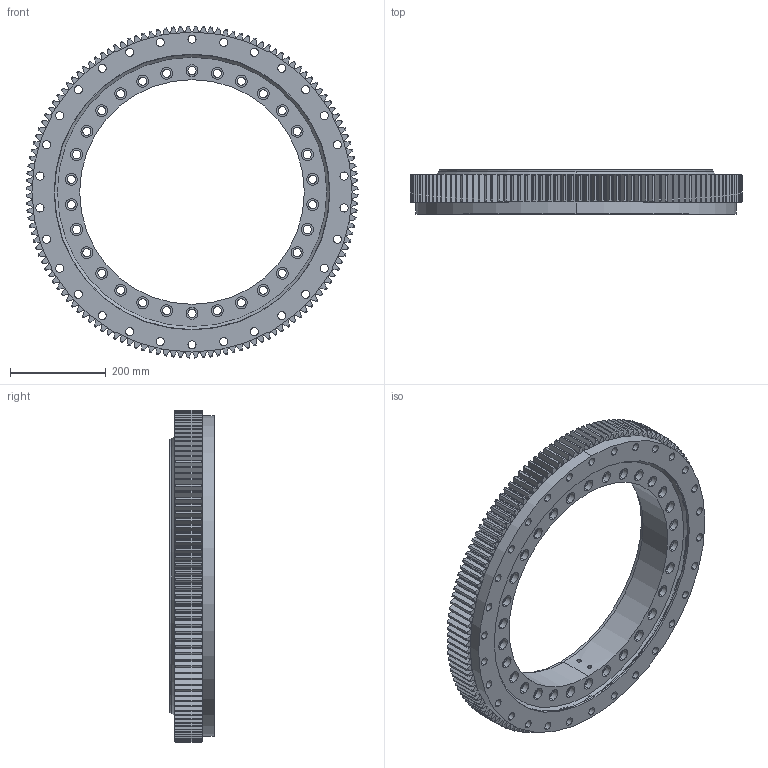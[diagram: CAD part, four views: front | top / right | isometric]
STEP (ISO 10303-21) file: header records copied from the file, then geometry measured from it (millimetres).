
FILE_DESCRIPTION (( 'STEP AP214' ), '1' );
FILE_NAME ('B2220-2-0695BB.STEP', '2022-11-28T14:32:44', ( '' ), ( '' ), 'SwSTEP 2.0', 'SolidWorks 2020', '' );
FILE_SCHEMA (( 'AUTOMOTIVE_DESIGN' ));
Length unit declared in the file: millimetre
Products named in the file (1): B2220-2-0695BB
Bounding box: 694.89 x 93 x 694.89 mm (x, y, z)
Volume: 14104925.8 mm3; surface area: 1529682.9 mm2
Topology: 4 solids, 4 shells, 1320 faces, 3710 edges, 2472 vertices
Faces by surface type: cylinder 414, plane 354, cone 280, bspline 272
Entity records: 44399 total; most frequent: CARTESIAN_POINT 11847, ORIENTED_EDGE 7420, DIRECTION 5816, EDGE_CURVE 3710, VERTEX_POINT 2472, AXIS2_PLACEMENT_3D 2153, EDGE_LOOP 1522, LINE 1510
